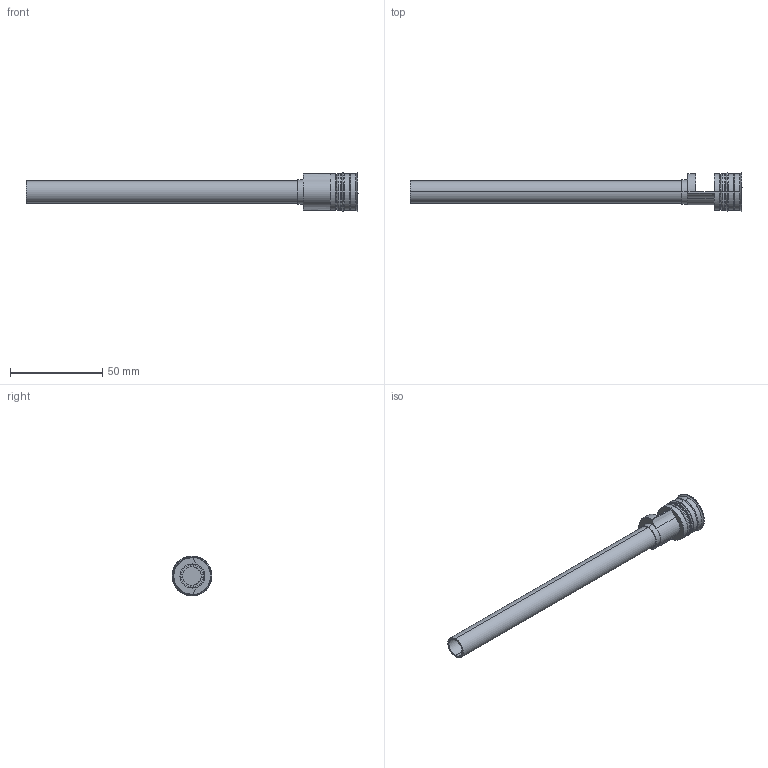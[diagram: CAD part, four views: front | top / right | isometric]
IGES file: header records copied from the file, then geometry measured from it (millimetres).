
Start section: START RECORD GO HERE.
Global section: file name: RF-20Fx150_12.igs; native system: DASSAULT SYSTEMES CATIA V5 R20 - www.3ds.com; preprocessor: CATIA Version 5 Release 20 ; author: Utente; organization: NB04-ASUS; date: 20210223.202904; units: millimetre
Bounding box: 179.5 x 21.5 x 21.5 mm (x, y, z)
Surface area: 13826.2 mm2 (no closed solid volume)
Topology: 0 solids, 0 shells, 74 faces, 416 edges, 416 vertices
Faces by surface type: revolution 47, plane 27
